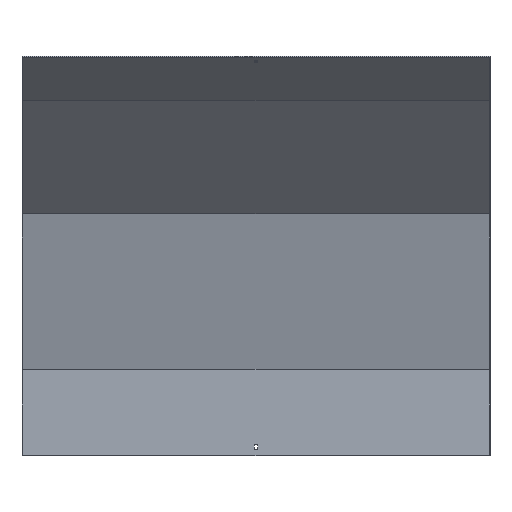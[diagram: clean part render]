
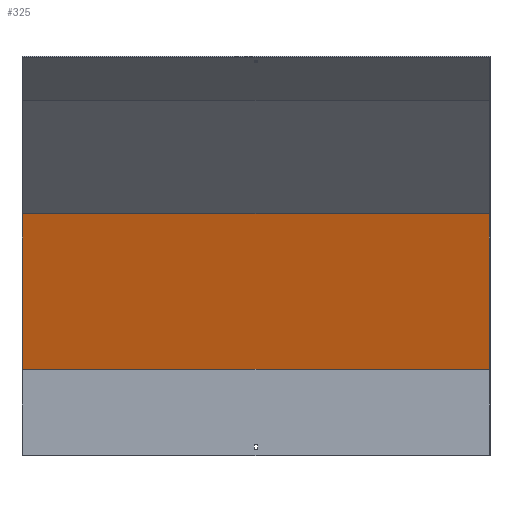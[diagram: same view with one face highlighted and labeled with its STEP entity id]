
A CAD part, front view. The second image highlights one B-rep face of the part: STEP entity #325.
In plain terms, the highlighted planar face has unit normal (0, -0.966, -0.259).
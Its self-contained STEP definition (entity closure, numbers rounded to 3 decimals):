
#13 = LINE ( 'NONE', #146, #327 ) ;
#21 = ORIENTED_EDGE ( 'NONE', *, *, #86, .T. ) ;
#42 = EDGE_CURVE ( 'NONE', #954, #557, #264, .T. ) ;
#86 = EDGE_CURVE ( 'NONE', #557, #230, #726, .T. ) ;
#91 = DIRECTION ( 'NONE',  ( 0., 0.259, -0.966 ) ) ;
#105 = LINE ( 'NONE', #339, #617 ) ;
#146 = CARTESIAN_POINT ( 'NONE',  ( -450., 58.87, 15.774 ) ) ;
#147 = CARTESIAN_POINT ( 'NONE',  ( -450., -61.836, 466.252 ) ) ;
#152 = CARTESIAN_POINT ( 'NONE',  ( 451.5, 17.87, 168.788 ) ) ;
#156 = ORIENTED_EDGE ( 'NONE', *, *, #42, .T. ) ;
#230 = VERTEX_POINT ( 'NONE', #147 ) ;
#234 = FACE_OUTER_BOUND ( 'NONE', #235, .T. ) ;
#235 = EDGE_LOOP ( 'NONE', ( #304, #663, #156, #21 ) ) ;
#264 = LINE ( 'NONE', #347, #430 ) ;
#272 = DIRECTION ( 'NONE',  ( -1., 0., 0. ) ) ;
#300 = DIRECTION ( 'NONE',  ( 0., -0.966, -0.259 ) ) ;
#304 = ORIENTED_EDGE ( 'NONE', *, *, #607, .F. ) ;
#315 = PLANE ( 'NONE',  #880 ) ;
#325 = ADVANCED_FACE ( 'NONE', ( #234 ), #315, .T. ) ;
#327 = VECTOR ( 'NONE', #675, 1000. ) ;
#339 = CARTESIAN_POINT ( 'NONE',  ( 451.5, 18.5, 166.436 ) ) ;
#347 = CARTESIAN_POINT ( 'NONE',  ( 450., 58.87, 15.774 ) ) ;
#353 = CARTESIAN_POINT ( 'NONE',  ( 451.5, -61.836, 466.252 ) ) ;
#428 = DIRECTION ( 'NONE',  ( -1., 0., 0. ) ) ;
#430 = VECTOR ( 'NONE', #646, 1000. ) ;
#455 = EDGE_CURVE ( 'NONE', #954, #788, #105, .T. ) ;
#459 = CARTESIAN_POINT ( 'NONE',  ( 450., -61.836, 466.252 ) ) ;
#557 = VERTEX_POINT ( 'NONE', #459 ) ;
#607 = EDGE_CURVE ( 'NONE', #788, #230, #13, .T. ) ;
#617 = VECTOR ( 'NONE', #272, 1000. ) ;
#646 = DIRECTION ( 'NONE',  ( 0., -0.259, 0.966 ) ) ;
#663 = ORIENTED_EDGE ( 'NONE', *, *, #455, .F. ) ;
#675 = DIRECTION ( 'NONE',  ( 0., -0.259, 0.966 ) ) ;
#726 = LINE ( 'NONE', #353, #965 ) ;
#788 = VERTEX_POINT ( 'NONE', #952 ) ;
#880 = AXIS2_PLACEMENT_3D ( 'NONE', #152, #300, #91 ) ;
#952 = CARTESIAN_POINT ( 'NONE',  ( -450., 18.5, 166.436 ) ) ;
#954 = VERTEX_POINT ( 'NONE', #984 ) ;
#965 = VECTOR ( 'NONE', #428, 1000. ) ;
#984 = CARTESIAN_POINT ( 'NONE',  ( 450., 18.5, 166.436 ) ) ;
